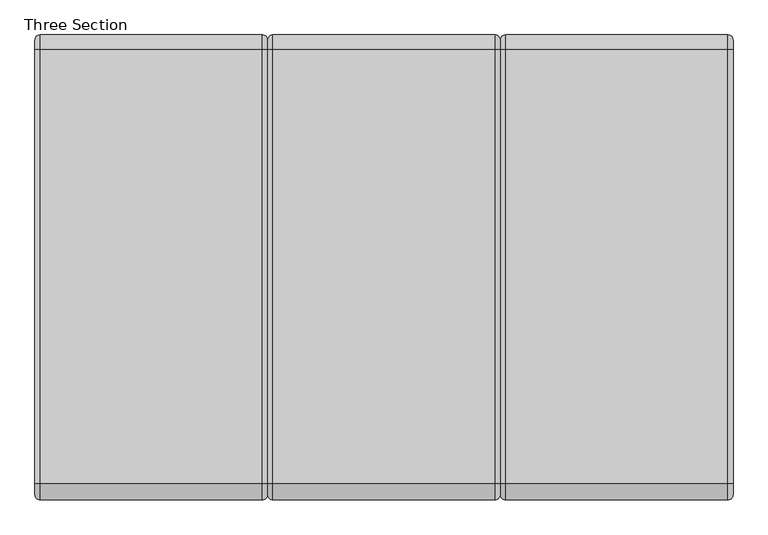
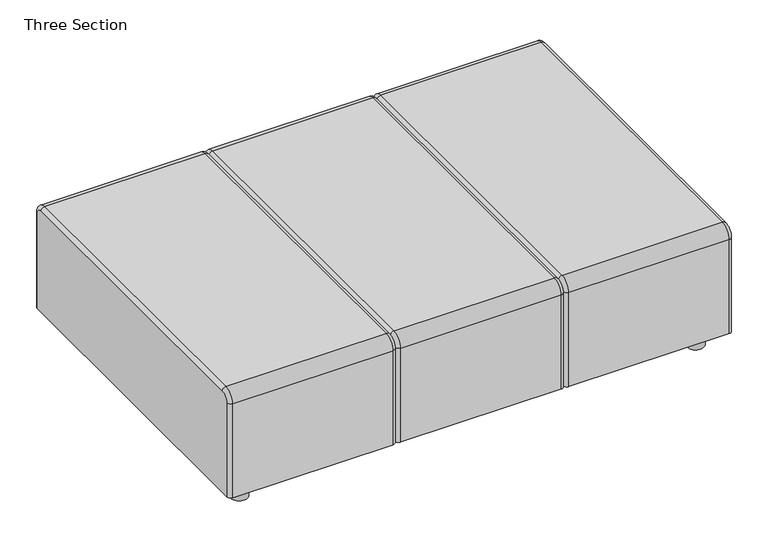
"""IFC4 building model written with IfcOpenShell, lengths in millimetres: furniture geometry, Steelcase Coalesse - Await - Seating - Connector Bench : Three Section."""

from ifc_helpers import new_model, si_unit, point, frame, frame_2d, origin, origin_with_axes, place, context, project, spatial, circle_curve, ellipse_curve, trimmed, segment, composite_curve, outline, extrude, source, transform, mapped, element, save
from ifc_brep_helpers import plane_surface, cylinder_surface, revolved_surface, advanced_brep


def three_section_b407b116(model_context):
    return source(origin(), model_context, "Body", "SolidModel", [
        advanced_brep(
        [(453.6820901, 393.3623127, 63.5), (466.2654193, 405.9456418, 63.5), (999.6886345, 405.9456418, 63.5), (1012.4820962, 393.1521801, 63.5), (1012.4820962, -698.8608965, 63.5), (999.6886345, -711.6543582, 63.5), (466.2654193, -711.6543582, 63.5), (453.6820901, -699.071029, 63.5), (453.6820901, -699.071029, 393.6999879), (453.6820901, -673.5543582, 419.2166587), (453.6820901, 370.1950719, 419.2166587), (453.6820901, 393.3623127, 396.049418), (1012.4820962, 393.1521801, 396.049418), (1012.4820962, 370.1950719, 419.0065262), (1012.4820962, -673.5543582, 419.0065262), (1012.4820962, -698.8608965, 393.6999879), (999.6886345, -711.6543582, 393.6999879), (466.2654193, -711.6543582, 393.6999879), (999.6886345, -673.5543582, 431.7999879), (466.2654193, -673.5543582, 431.7999879), (999.6886345, 370.1950719, 431.7999879), (466.2654193, 370.1950719, 431.7999879), (999.6886345, 405.9456418, 396.049418), (466.2654193, 405.9456418, 396.049418)],
        [
            (0, 1, circle_curve(frame((466.2654193, 393.3623127, 63.5), z_axis=(0.0, 0.0, -1.0), x_axis=(0.0, 1.0, 0.0)), 12.5833292)),
            (1, 2),
            (2, 3, circle_curve(frame((999.6886345, 393.1521801, 63.5), z_axis=(0.0, 0.0, -1.0), x_axis=(0.0, 1.0, 0.0)), 12.7934617)),
            (3, 4),
            (4, 5, circle_curve(frame((999.6886345, -698.8608965, 63.5), z_axis=(0.0, 0.0, -1.0), x_axis=(0.0, -1.0, 0.0)), 12.7934617)),
            (5, 6),
            (6, 7, circle_curve(frame((466.2654193, -699.071029, 63.5), z_axis=(0.0, 0.0, -1.0), x_axis=(0.0, -1.0, 0.0)), 12.5833292)),
            (7, 0),
            (7, 8),
            (8, 9, circle_curve(frame((453.6820901, -673.5543582, 393.6999879), z_axis=(-1.0, 0.0, 0.0), x_axis=(0.0, -1.0, 0.0)), 25.5166708)),
            (9, 10),
            (10, 11, circle_curve(frame((453.6820901, 370.1950719, 396.049418), z_axis=(-1.0, 0.0, 0.0), x_axis=(0.0, 0.0, 1.0)), 23.1672407)),
            (11, 0),
            (3, 12),
            (12, 13, circle_curve(frame((1012.4820962, 370.1950719, 396.049418), z_axis=(1.0, 0.0, 0.0), x_axis=(0.0, 0.0, 1.0)), 22.9571082)),
            (13, 14),
            (14, 15, circle_curve(frame((1012.4820962, -673.5543582, 393.6999879), z_axis=(1.0, 0.0, 0.0), x_axis=(0.0, -1.0, 0.0)), 25.3065383)),
            (15, 4),
            (15, 16, circle_curve(frame((999.6886345, -698.8608965, 393.6999879), z_axis=(0.0, 0.0, -1.0), x_axis=(0.0, -1.0, 0.0)), 12.7934617)),
            (16, 5),
            (16, 17),
            (17, 6),
            (17, 8, circle_curve(frame((466.2654193, -699.071029, 393.6999879), z_axis=(0.0, 0.0, -1.0), x_axis=(0.0, -1.0, 0.0)), 12.5833292)),
            (14, 18, circle_curve(frame((999.6886345, -673.5543582, 419.0065262), z_axis=(0.0, -1.0, 0.0), x_axis=(0.0, 0.0, 1.0)), 12.7934617)),
            (18, 16, circle_curve(frame((999.6886345, -673.5543582, 393.6999879), z_axis=(1.0, 0.0, 0.0), x_axis=(0.0, -1.0, 0.0)), 38.1)),
            (18, 19),
            (19, 17, circle_curve(frame((466.2654193, -673.5543582, 393.6999879), z_axis=(1.0, 0.0, 0.0), x_axis=(0.0, -1.0, 0.0)), 38.1)),
            (19, 9, circle_curve(frame((466.2654193, -673.5543582, 419.2166587), z_axis=(0.0, -1.0, 0.0), x_axis=(0.0, 0.0, 1.0)), 12.5833292)),
            (13, 20, circle_curve(frame((999.6886345, 370.1950719, 419.0065262), z_axis=(0.0, -1.0, 0.0), x_axis=(0.0, 0.0, 1.0)), 12.7934617)),
            (20, 18),
            (20, 21),
            (21, 19),
            (21, 10, circle_curve(frame((466.2654193, 370.1950719, 419.2166587), z_axis=(0.0, -1.0, 0.0), x_axis=(0.0, 0.0, 1.0)), 12.5833292)),
            (12, 22, circle_curve(frame((999.6886345, 393.1521801, 396.049418), z_axis=(0.0, 0.0, 1.0), x_axis=(0.0, 1.0, 0.0)), 12.7934617)),
            (22, 20, circle_curve(frame((999.6886345, 370.1950719, 396.049418), z_axis=(1.0, 0.0, 0.0), x_axis=(0.0, 0.0, 1.0)), 35.7505699)),
            (22, 23),
            (23, 21, circle_curve(frame((466.2654193, 370.1950719, 396.049418), z_axis=(1.0, 0.0, 0.0), x_axis=(0.0, 0.0, 1.0)), 35.7505699)),
            (23, 11, circle_curve(frame((466.2654193, 393.3623127, 396.049418), z_axis=(0.0, 0.0, 1.0), x_axis=(0.0, 1.0, 0.0)), 12.5833292)),
            (2, 22),
            (1, 23),
        ],
        [
            plane_surface(frame((1117.6000121, -686.2543582, 63.5), z_axis=(0.0, 0.0, -1.0), x_axis=(1.0, 0.0, 0.0))),
            plane_surface(frame((453.6820901, -699.071029, 63.5), z_axis=(-1.0, 0.0, 0.0), x_axis=(0.0, 0.0, 1.0))),
            plane_surface(frame((1012.4820962, -686.2543582, 63.5), z_axis=(1.0, 0.0, 0.0), x_axis=(0.0, 0.0, 1.0))),
            cylinder_surface(frame((999.6886345, -698.8608965, 63.5), z_axis=(0.0, 0.0, -1.0), x_axis=(0.0, -1.0, 0.0)), 12.7934617),
            plane_surface(frame((999.6886345, -711.6543582, 63.5), z_axis=(0.0, -1.0, 0.0), x_axis=(0.0, 0.0, 1.0))),
            cylinder_surface(frame((466.2654193, -699.071029, 63.5), z_axis=(0.0, 0.0, -1.0), x_axis=(0.0, -1.0, 0.0)), 12.5833292),
            revolved_surface(trimmed(ellipse_curve(frame((999.6886345, -698.8608965, 393.6999879), z_axis=(0.0, 0.0, -1.0), x_axis=(0.0, -1.0, 0.0)), 12.7934617, 12.7934617), [point((1012.4820962, -698.8608965, 393.6999879))], [point((999.6886345, -711.6543582, 393.6999879))], True, "CARTESIAN"), (1117.6000121, -673.5543582, 393.6999879), (-1.0, 0.0, 0.0)),
            cylinder_surface(frame((1117.6000121, -673.5543582, 393.6999879), z_axis=(-1.0, 0.0, 0.0), x_axis=(0.0, -1.0, 0.0)), 38.1),
            revolved_surface(trimmed(ellipse_curve(frame((466.2654193, -699.071029, 393.6999879), z_axis=(0.0, 0.0, -1.0), x_axis=(0.0, -1.0, 0.0)), 12.5833292, 12.5833292), [point((466.2654193, -711.6543582, 393.6999879))], [point((453.6820901, -699.071029, 393.6999879))], True, "CARTESIAN"), (1117.6000121, -673.5543582, 393.6999879), (-1.0, 0.0, 0.0)),
            cylinder_surface(frame((999.6886345, -673.5543582, 419.0065262), z_axis=(0.0, -1.0, 0.0), x_axis=(0.0, 0.0, 1.0)), 12.7934617),
            plane_surface(frame((999.6886345, -673.5543582, 431.7999879), z_axis=(0.0, 0.0, 1.0), x_axis=(0.0, 1.0, 0.0))),
            cylinder_surface(frame((466.2654193, -673.5543582, 419.2166587), z_axis=(0.0, -1.0, 0.0), x_axis=(0.0, 0.0, 1.0)), 12.5833292),
            revolved_surface(trimmed(ellipse_curve(frame((999.6886345, 370.1950719, 419.0065262), z_axis=(0.0, -1.0, 0.0), x_axis=(0.0, 0.0, 1.0)), 12.7934617, 12.7934617), [point((1012.4820962, 370.1950719, 419.0065262))], [point((999.6886345, 370.1950719, 431.7999879))], True, "CARTESIAN"), (1117.6000121, 370.1950719, 396.049418), (-1.0, 0.0, 0.0)),
            cylinder_surface(frame((1117.6000121, 370.1950719, 396.049418), z_axis=(-1.0, 0.0, 0.0), x_axis=(0.0, 0.0, 1.0)), 35.7505699),
            revolved_surface(trimmed(ellipse_curve(frame((466.2654193, 370.1950719, 419.2166587), z_axis=(0.0, -1.0, 0.0), x_axis=(0.0, 0.0, 1.0)), 12.5833292, 12.5833292), [point((466.2654193, 370.1950719, 431.7999879))], [point((453.6820901, 370.1950719, 419.2166587))], True, "CARTESIAN"), (1117.6000121, 370.1950719, 396.049418), (-1.0, 0.0, 0.0)),
            cylinder_surface(frame((999.6886345, 393.1521801, 396.049418), z_axis=(0.0, 0.0, 1.0), x_axis=(0.0, 1.0, 0.0)), 12.7934617),
            plane_surface(frame((999.6886345, 405.9456418, 396.049418), z_axis=(0.0, 1.0, 0.0), x_axis=(0.0, 0.0, -1.0))),
            cylinder_surface(frame((466.2654193, 393.3623127, 396.049418), z_axis=(0.0, 0.0, 1.0), x_axis=(0.0, 1.0, 0.0)), 12.5833292),
        ],
        [
            (0, [[1, 2, 3, 4, 5, 6, 7, 8]]),
            (1, [[-8, 9, 10, 11, 12, 13]]),
            (2, [[-4, 14, 15, 16, 17, 18]]),
            (3, [[-5, -18, 19, 20]]),
            (4, [[-6, -20, 21, 22]]),
            (5, [[-7, -22, 23, -9]]),
            (6, [[-17, 24, 25, -19]]),
            (7, [[-21, -25, 26, 27]]),
            (8, [[-10, -23, -27, 28]]),
            (9, [[-16, 29, 30, -24]]),
            (10, [[-26, -30, 31, 32]]),
            (11, [[-11, -28, -32, 33]]),
            (12, [[-15, 34, 35, -29]]),
            (13, [[-31, -35, 36, 37]]),
            (14, [[-12, -33, -37, 38]]),
            (15, [[-14, -3, 39, -34]]),
            (16, [[-36, -39, -2, 40]]),
            (17, [[-13, -38, -40, -1]]),
        ],
    ),
        advanced_brep(
        [(-105.1179159, 393.3623127, 63.5), (-92.5345867, 405.9456418, 63.5), (440.8886284, 405.9456418, 63.5), (453.6820901, 393.1521801, 63.5), (453.6820901, -698.8608965, 63.5), (440.8886284, -711.6543582, 63.5), (-92.5345867, -711.6543582, 63.5), (-105.1179159, -699.071029, 63.5), (-105.1179159, -699.071029, 393.6999879), (-105.1179159, -673.5543582, 419.2166587), (-105.1179159, 370.1950719, 419.2166587), (-105.1179159, 393.3623127, 396.049418), (453.6820901, 393.1521801, 396.049418), (453.6820901, 370.1950719, 419.0065262), (453.6820901, -673.5543582, 419.0065262), (453.6820901, -698.8608965, 393.6999879), (440.8886284, -711.6543582, 393.6999879), (-92.5345867, -711.6543582, 393.6999879), (440.8886284, -673.5543582, 431.7999879), (-92.5345867, -673.5543582, 431.7999879), (440.8886284, 370.1950719, 431.7999879), (-92.5345867, 370.1950719, 431.7999879), (440.8886284, 405.9456418, 396.049418), (-92.5345867, 405.9456418, 396.049418)],
        [
            (0, 1, circle_curve(frame((-92.5345867, 393.3623127, 63.5), z_axis=(0.0, 0.0, -1.0), x_axis=(0.0, 1.0, 0.0)), 12.5833292)),
            (1, 2),
            (2, 3, circle_curve(frame((440.8886284, 393.1521801, 63.5), z_axis=(0.0, 0.0, -1.0), x_axis=(0.0, 1.0, 0.0)), 12.7934617)),
            (3, 4),
            (4, 5, circle_curve(frame((440.8886284, -698.8608965, 63.5), z_axis=(0.0, 0.0, -1.0), x_axis=(0.0, -1.0, 0.0)), 12.7934617)),
            (5, 6),
            (6, 7, circle_curve(frame((-92.5345867, -699.071029, 63.5), z_axis=(0.0, 0.0, -1.0), x_axis=(0.0, -1.0, 0.0)), 12.5833292)),
            (7, 0),
            (7, 8),
            (8, 9, circle_curve(frame((-105.1179159, -673.5543582, 393.6999879), z_axis=(-1.0, 0.0, 0.0), x_axis=(0.0, -1.0, 0.0)), 25.5166708)),
            (9, 10),
            (10, 11, circle_curve(frame((-105.1179159, 370.1950719, 396.049418), z_axis=(-1.0, 0.0, 0.0), x_axis=(0.0, 0.0, 1.0)), 23.1672407)),
            (11, 0),
            (3, 12),
            (12, 13, circle_curve(frame((453.6820901, 370.1950719, 396.049418), z_axis=(1.0, 0.0, 0.0), x_axis=(0.0, 0.0, 1.0)), 22.9571082)),
            (13, 14),
            (14, 15, circle_curve(frame((453.6820901, -673.5543582, 393.6999879), z_axis=(1.0, 0.0, 0.0), x_axis=(0.0, -1.0, 0.0)), 25.3065383)),
            (15, 4),
            (15, 16, circle_curve(frame((440.8886284, -698.8608965, 393.6999879), z_axis=(0.0, 0.0, -1.0), x_axis=(0.0, -1.0, 0.0)), 12.7934617)),
            (16, 5),
            (16, 17),
            (17, 6),
            (17, 8, circle_curve(frame((-92.5345867, -699.071029, 393.6999879), z_axis=(0.0, 0.0, -1.0), x_axis=(0.0, -1.0, 0.0)), 12.5833292)),
            (14, 18, circle_curve(frame((440.8886284, -673.5543582, 419.0065262), z_axis=(0.0, -1.0, 0.0), x_axis=(0.0, 0.0, 1.0)), 12.7934617)),
            (18, 16, circle_curve(frame((440.8886284, -673.5543582, 393.6999879), z_axis=(1.0, 0.0, 0.0), x_axis=(0.0, -1.0, 0.0)), 38.1)),
            (18, 19),
            (19, 17, circle_curve(frame((-92.5345867, -673.5543582, 393.6999879), z_axis=(1.0, 0.0, 0.0), x_axis=(0.0, -1.0, 0.0)), 38.1)),
            (19, 9, circle_curve(frame((-92.5345867, -673.5543582, 419.2166587), z_axis=(0.0, -1.0, 0.0), x_axis=(0.0, 0.0, 1.0)), 12.5833292)),
            (13, 20, circle_curve(frame((440.8886284, 370.1950719, 419.0065262), z_axis=(0.0, -1.0, 0.0), x_axis=(0.0, 0.0, 1.0)), 12.7934617)),
            (20, 18),
            (20, 21),
            (21, 19),
            (21, 10, circle_curve(frame((-92.5345867, 370.1950719, 419.2166587), z_axis=(0.0, -1.0, 0.0), x_axis=(0.0, 0.0, 1.0)), 12.5833292)),
            (12, 22, circle_curve(frame((440.8886284, 393.1521801, 396.049418), z_axis=(0.0, 0.0, 1.0), x_axis=(0.0, 1.0, 0.0)), 12.7934617)),
            (22, 20, circle_curve(frame((440.8886284, 370.1950719, 396.049418), z_axis=(1.0, 0.0, 0.0), x_axis=(0.0, 0.0, 1.0)), 35.7505699)),
            (22, 23),
            (23, 21, circle_curve(frame((-92.5345867, 370.1950719, 396.049418), z_axis=(1.0, 0.0, 0.0), x_axis=(0.0, 0.0, 1.0)), 35.7505699)),
            (23, 11, circle_curve(frame((-92.5345867, 393.3623127, 396.049418), z_axis=(0.0, 0.0, 1.0), x_axis=(0.0, 1.0, 0.0)), 12.5833292)),
            (2, 22),
            (1, 23),
        ],
        [
            plane_surface(frame((558.8000061, -686.2543582, 63.5), z_axis=(0.0, 0.0, -1.0), x_axis=(1.0, 0.0, 0.0))),
            plane_surface(frame((-105.1179159, -699.071029, 63.5), z_axis=(-1.0, 0.0, 0.0), x_axis=(0.0, 0.0, 1.0))),
            plane_surface(frame((453.6820901, -686.2543582, 63.5), z_axis=(1.0, 0.0, 0.0), x_axis=(0.0, 0.0, 1.0))),
            cylinder_surface(frame((440.8886284, -698.8608965, 63.5), z_axis=(0.0, 0.0, -1.0), x_axis=(0.0, -1.0, 0.0)), 12.7934617),
            plane_surface(frame((440.8886284, -711.6543582, 63.5), z_axis=(0.0, -1.0, 0.0), x_axis=(0.0, 0.0, 1.0))),
            cylinder_surface(frame((-92.5345867, -699.071029, 63.5), z_axis=(0.0, 0.0, -1.0), x_axis=(0.0, -1.0, 0.0)), 12.5833292),
            revolved_surface(trimmed(ellipse_curve(frame((440.8886284, -698.8608965, 393.6999879), z_axis=(0.0, 0.0, -1.0), x_axis=(0.0, -1.0, 0.0)), 12.7934617, 12.7934617), [point((453.6820901, -698.8608965, 393.6999879))], [point((440.8886284, -711.6543582, 393.6999879))], True, "CARTESIAN"), (558.8000061, -673.5543582, 393.6999879), (-1.0, 0.0, 0.0)),
            cylinder_surface(frame((558.8000061, -673.5543582, 393.6999879), z_axis=(-1.0, 0.0, 0.0), x_axis=(0.0, -1.0, 0.0)), 38.1),
            revolved_surface(trimmed(ellipse_curve(frame((-92.5345867, -699.071029, 393.6999879), z_axis=(0.0, 0.0, -1.0), x_axis=(0.0, -1.0, 0.0)), 12.5833292, 12.5833292), [point((-92.5345867, -711.6543582, 393.6999879))], [point((-105.1179159, -699.071029, 393.6999879))], True, "CARTESIAN"), (558.8000061, -673.5543582, 393.6999879), (-1.0, 0.0, 0.0)),
            cylinder_surface(frame((440.8886284, -673.5543582, 419.0065262), z_axis=(0.0, -1.0, 0.0), x_axis=(0.0, 0.0, 1.0)), 12.7934617),
            plane_surface(frame((440.8886284, -673.5543582, 431.7999879), z_axis=(0.0, 0.0, 1.0), x_axis=(0.0, 1.0, 0.0))),
            cylinder_surface(frame((-92.5345867, -673.5543582, 419.2166587), z_axis=(0.0, -1.0, 0.0), x_axis=(0.0, 0.0, 1.0)), 12.5833292),
            revolved_surface(trimmed(ellipse_curve(frame((440.8886284, 370.1950719, 419.0065262), z_axis=(0.0, -1.0, 0.0), x_axis=(0.0, 0.0, 1.0)), 12.7934617, 12.7934617), [point((453.6820901, 370.1950719, 419.0065262))], [point((440.8886284, 370.1950719, 431.7999879))], True, "CARTESIAN"), (558.8000061, 370.1950719, 396.049418), (-1.0, 0.0, 0.0)),
            cylinder_surface(frame((558.8000061, 370.1950719, 396.049418), z_axis=(-1.0, 0.0, 0.0), x_axis=(0.0, 0.0, 1.0)), 35.7505699),
            revolved_surface(trimmed(ellipse_curve(frame((-92.5345867, 370.1950719, 419.2166587), z_axis=(0.0, -1.0, 0.0), x_axis=(0.0, 0.0, 1.0)), 12.5833292, 12.5833292), [point((-92.5345867, 370.1950719, 431.7999879))], [point((-105.1179159, 370.1950719, 419.2166587))], True, "CARTESIAN"), (558.8000061, 370.1950719, 396.049418), (-1.0, 0.0, 0.0)),
            cylinder_surface(frame((440.8886284, 393.1521801, 396.049418), z_axis=(0.0, 0.0, 1.0), x_axis=(0.0, 1.0, 0.0)), 12.7934617),
            plane_surface(frame((440.8886284, 405.9456418, 396.049418), z_axis=(0.0, 1.0, 0.0), x_axis=(0.0, 0.0, -1.0))),
            cylinder_surface(frame((-92.5345867, 393.3623127, 396.049418), z_axis=(0.0, 0.0, 1.0), x_axis=(0.0, 1.0, 0.0)), 12.5833292),
        ],
        [
            (0, [[1, 2, 3, 4, 5, 6, 7, 8]]),
            (1, [[-8, 9, 10, 11, 12, 13]]),
            (2, [[-4, 14, 15, 16, 17, 18]]),
            (3, [[-5, -18, 19, 20]]),
            (4, [[-6, -20, 21, 22]]),
            (5, [[-7, -22, 23, -9]]),
            (6, [[-17, 24, 25, -19]]),
            (7, [[-21, -25, 26, 27]]),
            (8, [[-10, -23, -27, 28]]),
            (9, [[-16, 29, 30, -24]]),
            (10, [[-26, -30, 31, 32]]),
            (11, [[-11, -28, -32, 33]]),
            (12, [[-15, 34, 35, -29]]),
            (13, [[-31, -35, 36, 37]]),
            (14, [[-12, -33, -37, 38]]),
            (15, [[-14, -3, 39, -34]]),
            (16, [[-36, -39, -2, 40]]),
            (17, [[-13, -38, -40, -1]]),
        ],
    ),
        advanced_brep(
        [(-663.917922, 393.3623127, 63.5), (-651.3345928, 405.9456418, 63.5), (-117.9113776, 405.9456418, 63.5), (-105.1179159, 393.1521801, 63.5), (-105.1179159, -698.8608965, 63.5), (-117.9113776, -711.6543582, 63.5), (-651.3345928, -711.6543582, 63.5), (-663.917922, -699.071029, 63.5), (-663.917922, -699.071029, 393.6999879), (-663.917922, -673.5543582, 419.2166587), (-663.917922, 370.1950719, 419.2166587), (-663.917922, 393.3623127, 396.049418), (-105.1179159, 393.1521801, 396.049418), (-105.1179159, 370.1950719, 419.0065262), (-105.1179159, -673.5543582, 419.0065262), (-105.1179159, -698.8608965, 393.6999879), (-117.9113776, -711.6543582, 393.6999879), (-651.3345928, -711.6543582, 393.6999879), (-117.9113776, -673.5543582, 431.7999879), (-651.3345928, -673.5543582, 431.7999879), (-117.9113776, 370.1950719, 431.7999879), (-651.3345928, 370.1950719, 431.7999879), (-117.9113776, 405.9456418, 396.049418), (-651.3345928, 405.9456418, 396.049418)],
        [
            (0, 1, circle_curve(frame((-651.3345928, 393.3623127, 63.5), z_axis=(0.0, 0.0, -1.0), x_axis=(0.0, 1.0, 0.0)), 12.5833292)),
            (1, 2),
            (2, 3, circle_curve(frame((-117.9113776, 393.1521801, 63.5), z_axis=(0.0, 0.0, -1.0), x_axis=(0.0, 1.0, 0.0)), 12.7934617)),
            (3, 4),
            (4, 5, circle_curve(frame((-117.9113776, -698.8608965, 63.5), z_axis=(0.0, 0.0, -1.0), x_axis=(0.0, -1.0, 0.0)), 12.7934617)),
            (5, 6),
            (6, 7, circle_curve(frame((-651.3345928, -699.071029, 63.5), z_axis=(0.0, 0.0, -1.0), x_axis=(0.0, -1.0, 0.0)), 12.5833292)),
            (7, 0),
            (7, 8),
            (8, 9, circle_curve(frame((-663.917922, -673.5543582, 393.6999879), z_axis=(-1.0, 0.0, 0.0), x_axis=(0.0, -1.0, 0.0)), 25.5166708)),
            (9, 10),
            (10, 11, circle_curve(frame((-663.917922, 370.1950719, 396.049418), z_axis=(-1.0, 0.0, 0.0), x_axis=(0.0, 0.0, 1.0)), 23.1672407)),
            (11, 0),
            (3, 12),
            (12, 13, circle_curve(frame((-105.1179159, 370.1950719, 396.049418), z_axis=(1.0, 0.0, 0.0), x_axis=(0.0, 0.0, 1.0)), 22.9571082)),
            (13, 14),
            (14, 15, circle_curve(frame((-105.1179159, -673.5543582, 393.6999879), z_axis=(1.0, 0.0, 0.0), x_axis=(0.0, -1.0, 0.0)), 25.3065383)),
            (15, 4),
            (15, 16, circle_curve(frame((-117.9113776, -698.8608965, 393.6999879), z_axis=(0.0, 0.0, -1.0), x_axis=(0.0, -1.0, 0.0)), 12.7934617)),
            (16, 5),
            (16, 17),
            (17, 6),
            (17, 8, circle_curve(frame((-651.3345928, -699.071029, 393.6999879), z_axis=(0.0, 0.0, -1.0), x_axis=(0.0, -1.0, 0.0)), 12.5833292)),
            (14, 18, circle_curve(frame((-117.9113776, -673.5543582, 419.0065262), z_axis=(0.0, -1.0, 0.0), x_axis=(0.0, 0.0, 1.0)), 12.7934617)),
            (18, 16, circle_curve(frame((-117.9113776, -673.5543582, 393.6999879), z_axis=(1.0, 0.0, 0.0), x_axis=(0.0, -1.0, 0.0)), 38.1)),
            (18, 19),
            (19, 17, circle_curve(frame((-651.3345928, -673.5543582, 393.6999879), z_axis=(1.0, 0.0, 0.0), x_axis=(0.0, -1.0, 0.0)), 38.1)),
            (19, 9, circle_curve(frame((-651.3345928, -673.5543582, 419.2166587), z_axis=(0.0, -1.0, 0.0), x_axis=(0.0, 0.0, 1.0)), 12.5833292)),
            (13, 20, circle_curve(frame((-117.9113776, 370.1950719, 419.0065262), z_axis=(0.0, -1.0, 0.0), x_axis=(0.0, 0.0, 1.0)), 12.7934617)),
            (20, 18),
            (20, 21),
            (21, 19),
            (21, 10, circle_curve(frame((-651.3345928, 370.1950719, 419.2166587), z_axis=(0.0, -1.0, 0.0), x_axis=(0.0, 0.0, 1.0)), 12.5833292)),
            (12, 22, circle_curve(frame((-117.9113776, 393.1521801, 396.049418), z_axis=(0.0, 0.0, 1.0), x_axis=(0.0, 1.0, 0.0)), 12.7934617)),
            (22, 20, circle_curve(frame((-117.9113776, 370.1950719, 396.049418), z_axis=(1.0, 0.0, 0.0), x_axis=(0.0, 0.0, 1.0)), 35.7505699)),
            (22, 23),
            (23, 21, circle_curve(frame((-651.3345928, 370.1950719, 396.049418), z_axis=(1.0, 0.0, 0.0), x_axis=(0.0, 0.0, 1.0)), 35.7505699)),
            (23, 11, circle_curve(frame((-651.3345928, 393.3623127, 396.049418), z_axis=(0.0, 0.0, 1.0), x_axis=(0.0, 1.0, 0.0)), 12.5833292)),
            (2, 22),
            (1, 23),
        ],
        [
            plane_surface(frame((0.0, -686.2543582, 63.5), z_axis=(0.0, 0.0, -1.0), x_axis=(1.0, 0.0, 0.0))),
            plane_surface(frame((-663.917922, -699.071029, 63.5), z_axis=(-1.0, 0.0, 0.0), x_axis=(0.0, 0.0, 1.0))),
            plane_surface(frame((-105.1179159, -686.2543582, 63.5), z_axis=(1.0, 0.0, 0.0), x_axis=(0.0, 0.0, 1.0))),
            cylinder_surface(frame((-117.9113776, -698.8608965, 63.5), z_axis=(0.0, 0.0, -1.0), x_axis=(0.0, -1.0, 0.0)), 12.7934617),
            plane_surface(frame((-117.9113776, -711.6543582, 63.5), z_axis=(0.0, -1.0, 0.0), x_axis=(0.0, 0.0, 1.0))),
            cylinder_surface(frame((-651.3345928, -699.071029, 63.5), z_axis=(0.0, 0.0, -1.0), x_axis=(0.0, -1.0, 0.0)), 12.5833292),
            revolved_surface(trimmed(ellipse_curve(frame((-117.9113776, -698.8608965, 393.6999879), z_axis=(0.0, 0.0, -1.0), x_axis=(0.0, -1.0, 0.0)), 12.7934617, 12.7934617), [point((-105.1179159, -698.8608965, 393.6999879))], [point((-117.9113776, -711.6543582, 393.6999879))], True, "CARTESIAN"), (0.0, -673.5543582, 393.6999879), (-1.0, 0.0, 0.0)),
            cylinder_surface(frame((0.0, -673.5543582, 393.6999879), z_axis=(-1.0, 0.0, 0.0), x_axis=(0.0, -1.0, 0.0)), 38.1),
            revolved_surface(trimmed(ellipse_curve(frame((-651.3345928, -699.071029, 393.6999879), z_axis=(0.0, 0.0, -1.0), x_axis=(0.0, -1.0, 0.0)), 12.5833292, 12.5833292), [point((-651.3345928, -711.6543582, 393.6999879))], [point((-663.917922, -699.071029, 393.6999879))], True, "CARTESIAN"), (0.0, -673.5543582, 393.6999879), (-1.0, 0.0, 0.0)),
            cylinder_surface(frame((-117.9113776, -673.5543582, 419.0065262), z_axis=(0.0, -1.0, 0.0), x_axis=(0.0, 0.0, 1.0)), 12.7934617),
            plane_surface(frame((-117.9113776, -673.5543582, 431.7999879), z_axis=(0.0, 0.0, 1.0), x_axis=(0.0, 1.0, 0.0))),
            cylinder_surface(frame((-651.3345928, -673.5543582, 419.2166587), z_axis=(0.0, -1.0, 0.0), x_axis=(0.0, 0.0, 1.0)), 12.5833292),
            revolved_surface(trimmed(ellipse_curve(frame((-117.9113776, 370.1950719, 419.0065262), z_axis=(0.0, -1.0, 0.0), x_axis=(0.0, 0.0, 1.0)), 12.7934617, 12.7934617), [point((-105.1179159, 370.1950719, 419.0065262))], [point((-117.9113776, 370.1950719, 431.7999879))], True, "CARTESIAN"), (0.0, 370.1950719, 396.049418), (-1.0, 0.0, 0.0)),
            cylinder_surface(frame((0.0, 370.1950719, 396.049418), z_axis=(-1.0, 0.0, 0.0), x_axis=(0.0, 0.0, 1.0)), 35.7505699),
            revolved_surface(trimmed(ellipse_curve(frame((-651.3345928, 370.1950719, 419.2166587), z_axis=(0.0, -1.0, 0.0), x_axis=(0.0, 0.0, 1.0)), 12.5833292, 12.5833292), [point((-651.3345928, 370.1950719, 431.7999879))], [point((-663.917922, 370.1950719, 419.2166587))], True, "CARTESIAN"), (0.0, 370.1950719, 396.049418), (-1.0, 0.0, 0.0)),
            cylinder_surface(frame((-117.9113776, 393.1521801, 396.049418), z_axis=(0.0, 0.0, 1.0), x_axis=(0.0, 1.0, 0.0)), 12.7934617),
            plane_surface(frame((-117.9113776, 405.9456418, 396.049418), z_axis=(0.0, 1.0, 0.0), x_axis=(0.0, 0.0, -1.0))),
            cylinder_surface(frame((-651.3345928, 393.3623127, 396.049418), z_axis=(0.0, 0.0, 1.0), x_axis=(0.0, 1.0, 0.0)), 12.5833292),
        ],
        [
            (0, [[1, 2, 3, 4, 5, 6, 7, 8]]),
            (1, [[-8, 9, 10, 11, 12, 13]]),
            (2, [[-4, 14, 15, 16, 17, 18]]),
            (3, [[-5, -18, 19, 20]]),
            (4, [[-6, -20, 21, 22]]),
            (5, [[-7, -22, 23, -9]]),
            (6, [[-17, 24, 25, -19]]),
            (7, [[-21, -25, 26, 27]]),
            (8, [[-10, -23, -27, 28]]),
            (9, [[-16, 29, 30, -24]]),
            (10, [[-26, -30, 31, 32]]),
            (11, [[-11, -28, -32, 33]]),
            (12, [[-15, 34, 35, -29]]),
            (13, [[-31, -35, 36, 37]]),
            (14, [[-12, -33, -37, 38]]),
            (15, [[-14, -3, 39, -34]]),
            (16, [[-36, -39, -2, 40]]),
            (17, [[-13, -38, -40, -1]]),
        ],
    ),
        extrude(outline(composite_curve([segment(trimmed(circle_curve(frame_2d((-584.4783622, -631.9867521)), 27.94), [point((-612.4183622, -631.9867521))], [point((-556.5383622, -631.9867521))], False, "CARTESIAN"), True, "CONTINUOUS"), segment(trimmed(circle_curve(frame_2d((-584.4783622, -631.9867521)), 27.94), [point((-556.5383622, -631.9867521))], [point((-612.4183622, -631.9867521))], False, "CARTESIAN"), True, "CONTINUOUS")], self_intersect=False)), origin_with_axes(), (0.0, 0.0, 1.0), 63.5),
        extrude(outline(composite_curve([segment(trimmed(circle_curve(frame_2d((-584.4783622, 326.8632479)), 27.94), [point((-612.4183622, 326.8632479))], [point((-556.5383622, 326.8632479))], False, "CARTESIAN"), True, "CONTINUOUS"), segment(trimmed(circle_curve(frame_2d((-584.4783622, 326.8632479)), 27.94), [point((-556.5383622, 326.8632479))], [point((-612.4183622, 326.8632479))], False, "CARTESIAN"), True, "CONTINUOUS")], self_intersect=False)), origin_with_axes(), (0.0, 0.0, 1.0), 63.5),
        extrude(outline(composite_curve([segment(trimmed(circle_curve(frame_2d((933.1716378, -631.9867521)), 27.94), [point((905.2316378, -631.9867521))], [point((961.1116378, -631.9867521))], False, "CARTESIAN"), True, "CONTINUOUS"), segment(trimmed(circle_curve(frame_2d((933.1716378, -631.9867521)), 27.94), [point((961.1116378, -631.9867521))], [point((905.2316378, -631.9867521))], False, "CARTESIAN"), True, "CONTINUOUS")], self_intersect=False)), origin_with_axes(), (0.0, 0.0, 1.0), 63.5),
        extrude(outline(composite_curve([segment(trimmed(circle_curve(frame_2d((933.1716378, 326.8632479)), 27.94), [point((905.2316378, 326.8632479))], [point((961.1116378, 326.8632479))], False, "CARTESIAN"), True, "CONTINUOUS"), segment(trimmed(circle_curve(frame_2d((933.1716378, 326.8632479)), 27.94), [point((961.1116378, 326.8632479))], [point((905.2316378, 326.8632479))], False, "CARTESIAN"), True, "CONTINUOUS")], self_intersect=False)), origin_with_axes(), (0.0, 0.0, 1.0), 63.5),
    ])


if __name__ == "__main__":
    model = new_model("IFC4")
    model_context = context("Model", 3, world=origin())
    ifc_project = project(units=[si_unit("LENGTHUNIT", "METRE", prefix="MILLI")], contexts=[model_context])
    site = spatial("IfcSite", under=ifc_project)
    building = spatial("IfcBuilding", under=site)
    placement = place(None, origin())
    three_section_shape = three_section_b407b116(model_context)
    element("IfcFurniture", 1, ObjectType="Steelcase Coalesse - Await - Seating - Connector Bench : Three Section", at=placement, inside=building, context=model_context, shape_type="MappedRepresentation", body=[
        mapped(three_section_shape, transform((0.0, 0.0, 0.0), x_axis=(1.0, 0.0, 0.0), y_axis=(0.0, 1.0, 0.0), z_axis=(0.0, 0.0, 1.0))),
    ])
    save(model, "model.ifc")
